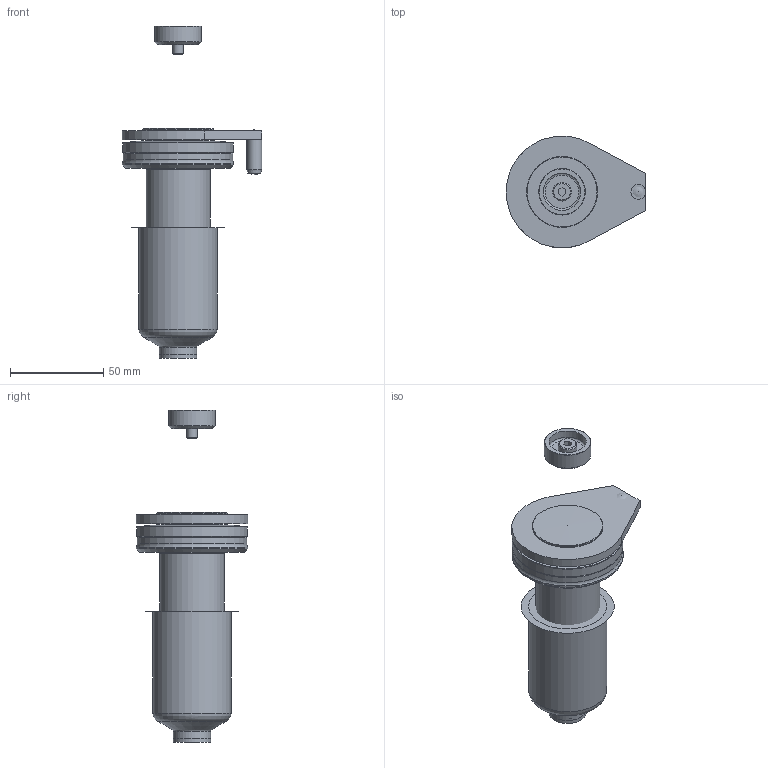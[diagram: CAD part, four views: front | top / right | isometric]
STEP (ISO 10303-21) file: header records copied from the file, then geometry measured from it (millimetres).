
FILE_DESCRIPTION(/* description */ (''),/* implementation_level */ '2;1');
FILE_NAME(/* name */ 'U1000 CAP HT-D.stp',/* time_stamp */ '2021-12-23T10:46:24+08:00',/* author */ (''),/* organization */ (''),/* preprocessor_version */ 'ST-DEVELOPER v16',/* originating_system */ 'SIEMENS PLM Software NX 11.0',/* authorisation */ '');
FILE_SCHEMA (('AUTOMOTIVE_DESIGN { 1 0 10303 214 3 1 1 1 }'));
Length unit declared in the file: millimetre
Products named in the file (15): 3D_EXPORT_3D_ASSY_11312284_0_id6_x_t; 3D_EXPORT_3D_ASSY_11312284_0_id11_x_t; 3D_EXPORT_3D_ASSY_11312284_0_id16_x_t; 3D_EXPORT_3D_ASSY_11312284_0_id21_x_t; 3D_EXPORT_3D_ASSY_11312284_0_id26_x_t; 3D_EXPORT_3D_ASSY_11312284_0_id31_x_t; 3D_EXPORT_3D_ASSY_11312284_0_id36_x_t; 3D_EXPORT_3D_ASSY_11312284_0_id41_x_t; 3D_EXPORT_3D_ASSY_11312284_0_id46_x_t; 3D_EXPORT_3D_ASSY_11312284_0_id51_x_t; 3D_EXPORT_3D_ASSY_11312284_0_id56_x_t; 3D_EXPORT_3D_ASSY_11312284_0_id61_x_t; 3D_EXPORT_3D_ASSY_11312284_0_id66_x_t; 3D_EXPORT_3D_ASSY_11312284_0_id73_x_t; 3D_EXPORT_3D_ASSY_11312284_0_x_t
Assembly tree (15 placements, depth 2):
  3D_EXPORT_3D_ASSY_11312284_0_x_t
    3D_EXPORT_3D_ASSY_11312284_0_id73_x_t
    3D_EXPORT_3D_ASSY_11312284_0_id66_x_t  x2
    3D_EXPORT_3D_ASSY_11312284_0_id61_x_t
    3D_EXPORT_3D_ASSY_11312284_0_id56_x_t
    3D_EXPORT_3D_ASSY_11312284_0_id51_x_t
    3D_EXPORT_3D_ASSY_11312284_0_id46_x_t
    3D_EXPORT_3D_ASSY_11312284_0_id41_x_t
    3D_EXPORT_3D_ASSY_11312284_0_id36_x_t
    3D_EXPORT_3D_ASSY_11312284_0_id31_x_t
    3D_EXPORT_3D_ASSY_11312284_0_id26_x_t
    3D_EXPORT_3D_ASSY_11312284_0_id21_x_t
    3D_EXPORT_3D_ASSY_11312284_0_id16_x_t
    3D_EXPORT_3D_ASSY_11312284_0_id11_x_t
    3D_EXPORT_3D_ASSY_11312284_0_id6_x_t
Bounding box: 75 x 59.99 x 178.34 mm (x, y, z)
Volume: 293894.1 mm3; surface area: 67935.9 mm2
Topology: 15 solids, 15 shells, 380 faces, 1006 edges, 640 vertices
Faces by surface type: cylinder 149, plane 111, torus 83, cone 35, sphere 2
Full cylindrical faces by diameter (mm): 1.98 x1, 2.045 x1, 5.795 x1, 6 x1, 8 x1, 10 x1, 13.99 x1, 17.7 x1, 18.075 x1, 18.1 x1, 19 x1, 19.925 x1, 19.997 x1, 20 x1, 20.008 x1, 25 x1, 25.4 x1, 25.41 x2, 25.43 x1, 27.27 x1, 31.75 x1, 32.55 x1, 34.44 x1, 38.1 x1, 42 x1, 50 x1, 58.795 x1, 59.5 x1, 59.99 x1
Entity records: 16125 total; most frequent: CARTESIAN_POINT 4914, ORIENTED_EDGE 1734, DIRECTION 1542, EDGE_CURVE 867, AXIS2_PLACEMENT_3D 620, VERTEX_POINT 601, EDGE_LOOP 492, PRESENTATION_STYLE_ASSIGNMENT 378
